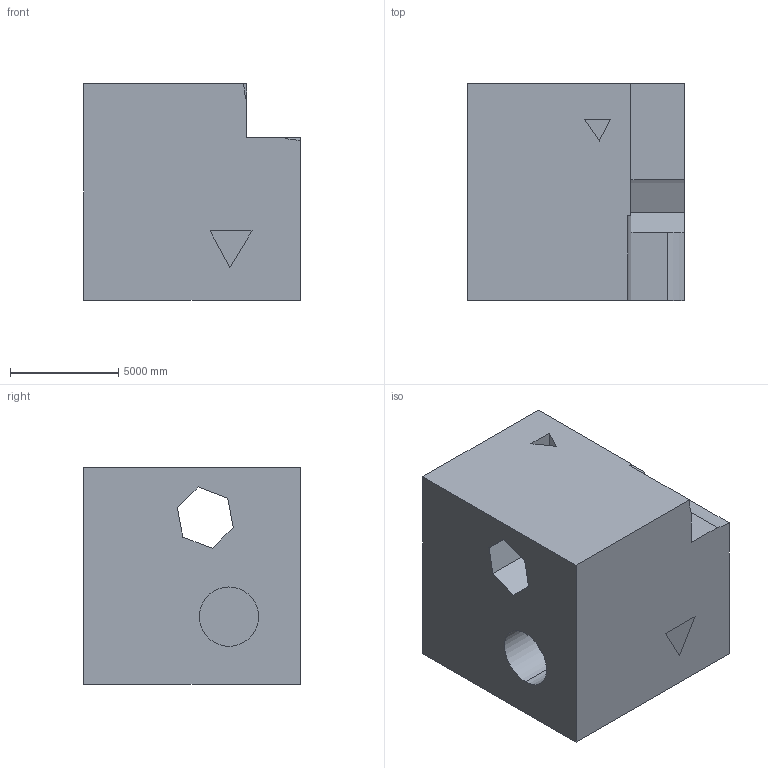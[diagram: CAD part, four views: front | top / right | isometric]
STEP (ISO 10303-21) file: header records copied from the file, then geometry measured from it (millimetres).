
FILE_DESCRIPTION (( 'STEP AP203' ), '1' );
FILE_NAME ('129.STEP', '2022-08-31T11:46:24', ( 'user' ), ( '' ), 'SwSTEP 2.0', 'SolidWorks 2021', '' );
FILE_SCHEMA (( 'CONFIG_CONTROL_DESIGN' ));
Length unit declared in the file: centimetre
Products named in the file (1): 129
Bounding box: 10000 x 10000 x 10000 mm (x, y, z)
Volume: 836929365183.6 mm3; surface area: 762647734.7 mm2
Topology: 1 solids, 1 shells, 35 faces, 87 edges, 58 vertices
Faces by surface type: plane 27, cylinder 8
Entity records: 1117 total; most frequent: CARTESIAN_POINT 184, ORIENTED_EDGE 174, DIRECTION 173, EDGE_CURVE 87, VECTOR 71, LINE 71, VERTEX_POINT 58, AXIS2_PLACEMENT_3D 51
